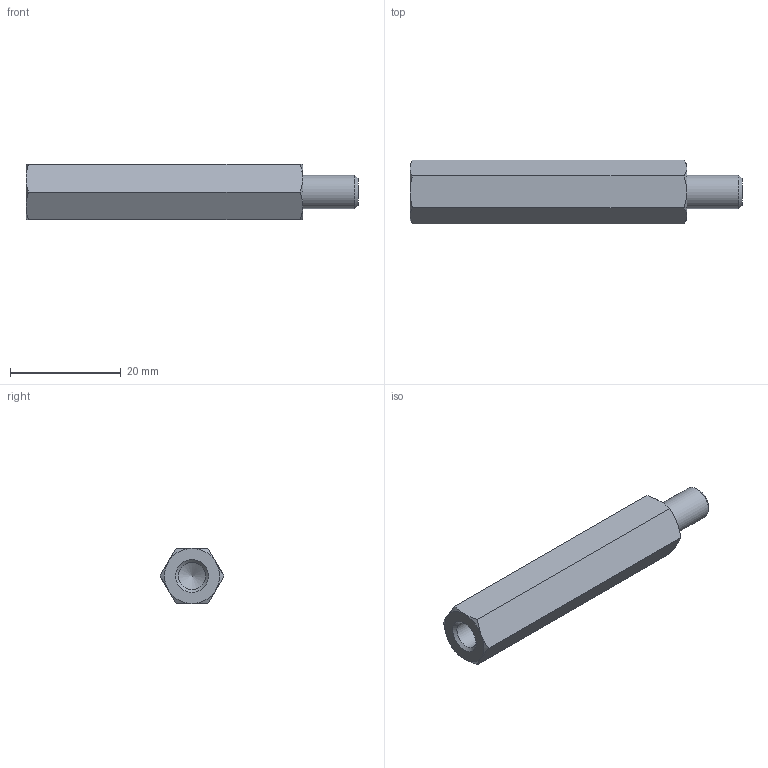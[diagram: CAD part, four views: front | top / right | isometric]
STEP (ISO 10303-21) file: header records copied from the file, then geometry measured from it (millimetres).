
FILE_DESCRIPTION( ( 'STEP AP203' ), '1' );
FILE_NAME( 'C:/Temp/Ganter_Step_05_03_2020/data/3_2/gn6220/gn6220_ni/Stainless Steel-Spacer GN 6220-NI-M6-50-B.stp', '2020-03-13T05:43:16', ( 'License CC BY-ND 4.0' ), ( 'CADENAS' ), ' ', 'PARTsolutions', ' ' );
FILE_SCHEMA( ( 'CONFIG_CONTROL_DESIGN' ) );
Length unit declared in the file: millimetre
Products named in the file (1): _Stainless Steel-Spacer GN 6220-NI-M6-50-B
Bounding box: 60 x 11.55 x 10 mm (x, y, z)
Volume: 4270.9 mm3; surface area: 2341.2 mm2
Topology: 1 solids, 1 shells, 26 faces, 55 edges, 32 vertices
Faces by surface type: cone 15, plane 9, cylinder 2
Full cylindrical faces by diameter (mm): 4.917 x1, 6 x1
Entity records: 762 total; most frequent: CARTESIAN_POINT 226, DIRECTION 96, ORIENTED_EDGE 96, EDGE_CURVE 48, AXIS2_PLACEMENT_3D 45, EDGE_LOOP 32, VERTEX_POINT 31, FACE_OUTER_BOUND 28
